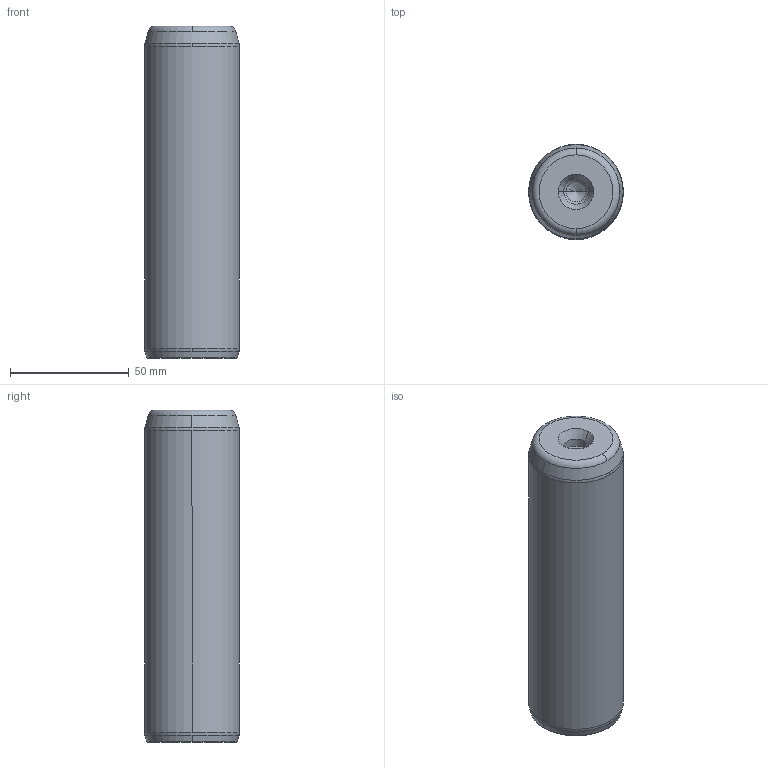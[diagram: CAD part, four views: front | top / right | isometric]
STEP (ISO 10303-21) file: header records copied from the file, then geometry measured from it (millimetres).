
FILE_DESCRIPTION((''),'2;1');
FILE_NAME('P10_040_140.stp','2008-12-23T15:23:13',(''),(''),'Mechanical Desktop 2009','Mechanical Desktop 2009',', , ');
FILE_SCHEMA(('CONFIG_CONTROL_DESIGN'));
Length unit declared in the file: millimetre
Products named in the file (5): Product; ProductAA; blmdl1; ProductA; blmdl1A
Assembly tree (2 placements, depth 3):
  Product
    ProductAA
      blmdl1
  ProductA
  blmdl1A
Bounding box: 40 x 40 x 140 mm (x, y, z)
Volume: 172425.1 mm3; surface area: 20436.7 mm2
Topology: 1 solids, 1 shells, 26 faces, 66 edges, 41 vertices
Faces by surface type: cone 10, torus 8, cylinder 6, plane 2
Entity records: 1012 total; most frequent: DIRECTION 170, CARTESIAN_POINT 134, ORIENTED_EDGE 128, AXIS2_PLACEMENT_3D 77, EDGE_CURVE 64, CIRCLE 48, VERTEX_POINT 41, EDGE_LOOP 27
